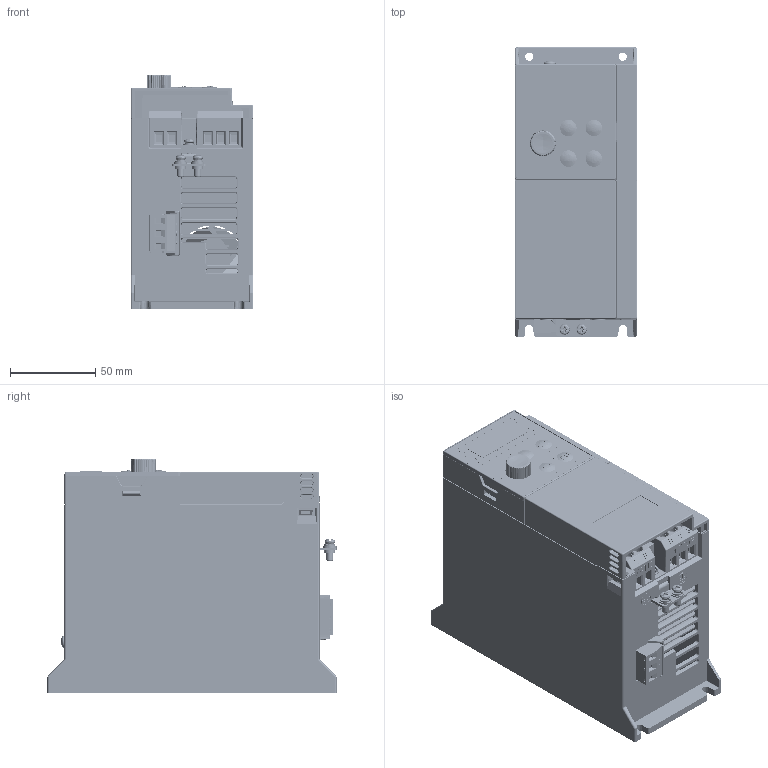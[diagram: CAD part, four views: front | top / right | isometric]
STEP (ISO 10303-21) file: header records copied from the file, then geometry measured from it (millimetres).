
FILE_DESCRIPTION((''),'2;1');
FILE_NAME('AD80-D0_ASM','2022-03-02T12:19:24',('wendong.luo'),(''),'CREO PARAMETRIC BY PTC INC, 2018100','CREO PARAMETRIC BY PTC INC, 2018100','');
FILE_SCHEMA(('CONFIG_CONTROL_DESIGN','GEOMETRIC_VALIDATION_PROPERTIES_MIM'));
Products named in the file (26): AD80-S0-PU-MECHANICAL_PART; FAN4020; E0100292; E0400085; E0400084; E0400074; E0400035; E0400088; E0400086; E0400081; E0400082; E0100292_ASM; M0203054; M0104055; M0202052; M3-SPRING_FLAT; M3-WASHER; M0202052_ASM; M0202003; E0400083; M0202000; AD80-D0-PU_ASM; AD80-LCP-MECHANICAL_PART; AD80-LCP-FOIL; AD80-D0-LCP_ASM; AD80-D0_ASM
Assembly tree (31 placements, depth 4):
  AD80-D0_ASM
    AD80-D0-PU_ASM
      AD80-S0-PU-MECHANICAL_PART
      FAN4020
      E0100292_ASM
        E0100292
        E0400085  x3
        E0400084  x2
        E0400074
        E0400035
        E0400088
        E0400086  x3
        E0400081
        E0400082
      M0203054
      M0104055
      M0202052_ASM
        M0202052
        M3-SPRING_FLAT
        M3-WASHER
      M0202003  x2
      E0400083
      M0202000
    AD80-D0-LCP_ASM
      AD80-LCP-MECHANICAL_PART
      AD80-LCP-FOIL
Bounding box: 72 x 170 x 137.6 mm (x, y, z)
Volume: 299894.7 mm3; surface area: 336389.2 mm2
Topology: 36 solids, 39 shells, 11524 faces, 30854 edges, 19819 vertices
Faces by surface type: plane 6565, cylinder 1559, extrusion 1149, bspline 943, cone 655, torus 349, sphere 304
Entity records: 477056 total; most frequent: CARTESIAN_POINT 116287, ORIENTED_EDGE 53186, DIRECTION 43321, PRESENTATION_STYLE_ASSIGNMENT 30870, STYLED_ITEM 30138, EDGE_CURVE 26599, CURVE_STYLE 25239, VECTOR 17527
